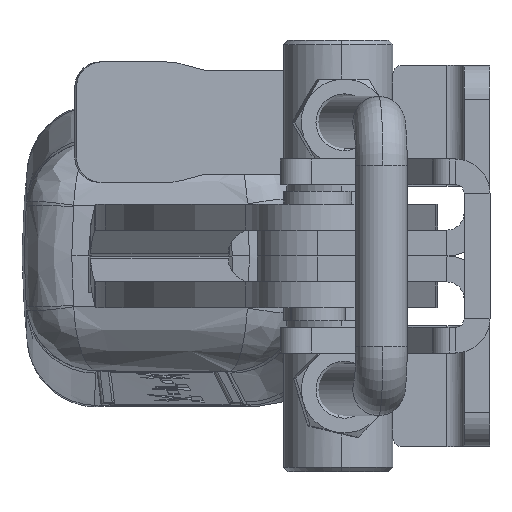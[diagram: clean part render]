
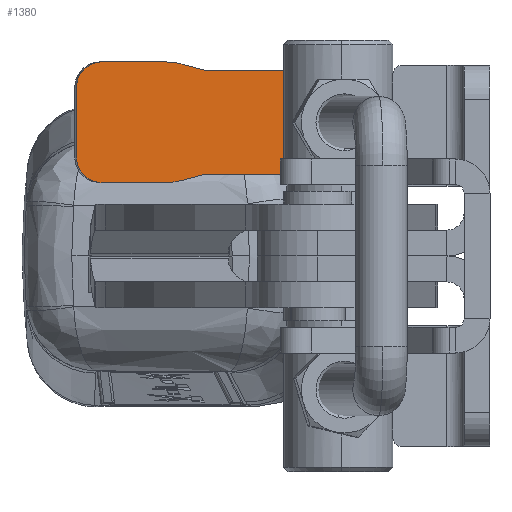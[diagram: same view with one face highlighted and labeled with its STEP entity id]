
A CAD part, left-side view. The second image highlights one B-rep face of the part: STEP entity #1380.
In plain terms, the highlighted planar face has unit normal (-0.998, -0.063, 0) as drawn and (0, 0, 1) by its records, which use the part's own axes.
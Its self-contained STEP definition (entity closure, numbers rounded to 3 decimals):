
#308 = ORIENTED_EDGE ( 'NONE', *, *, #16263, .T. ) ;
#650 = VERTEX_POINT ( 'NONE', #4717 ) ;
#947 = EDGE_CURVE ( 'NONE', #9253, #23996, #21048, .T. ) ;
#1380 = ADVANCED_FACE ( 'NONE', ( #8139, #23557 ), #25920, .T. ) ;
#1523 = AXIS2_PLACEMENT_3D ( 'NONE', #3799, #1849, #15891 ) ;
#1626 = ORIENTED_EDGE ( 'NONE', *, *, #9572, .T. ) ;
#1639 = CARTESIAN_POINT ( 'NONE',  ( -15.395, 9., 0. ) ) ;
#1642 = VERTEX_POINT ( 'NONE', #5174 ) ;
#1683 = CARTESIAN_POINT ( 'NONE',  ( -12.285, 6.727, 0. ) ) ;
#1712 = CARTESIAN_POINT ( 'NONE',  ( -33.2, 0., 0. ) ) ;
#1849 = DIRECTION ( 'NONE',  ( 0., 0., 1. ) ) ;
#1975 = DIRECTION ( 'NONE',  ( -1., 0., 0. ) ) ;
#1982 = LINE ( 'NONE', #14898, #21458 ) ;
#2034 = DIRECTION ( 'NONE',  ( 0., 0., 1. ) ) ;
#2256 = LINE ( 'NONE', #5144, #12331 ) ;
#2530 = CARTESIAN_POINT ( 'NONE',  ( -15.395, -9., 0. ) ) ;
#2654 = LINE ( 'NONE', #6118, #17421 ) ;
#2805 = CIRCLE ( 'NONE', #11822, 8. ) ;
#2993 = CARTESIAN_POINT ( 'NONE',  ( -15.395, -6., 0. ) ) ;
#3240 = VERTEX_POINT ( 'NONE', #22096 ) ;
#3573 = EDGE_CURVE ( 'NONE', #23996, #1642, #8431, .T. ) ;
#3662 = DIRECTION ( 'NONE',  ( 1., 0., 0. ) ) ;
#3675 = EDGE_CURVE ( 'NONE', #16708, #19549, #21926, .T. ) ;
#3734 = CARTESIAN_POINT ( 'NONE',  ( -3., 7., 0. ) ) ;
#3757 = AXIS2_PLACEMENT_3D ( 'NONE', #2530, #16583, #4570 ) ;
#3799 = CARTESIAN_POINT ( 'NONE',  ( -30., 0., 0. ) ) ;
#4414 = VECTOR ( 'NONE', #1975, 1000. ) ;
#4467 = ORIENTED_EDGE ( 'NONE', *, *, #16684, .T. ) ;
#4480 = ORIENTED_EDGE ( 'NONE', *, *, #3573, .T. ) ;
#4570 = DIRECTION ( 'NONE',  ( 1., 0., 0. ) ) ;
#4677 = ORIENTED_EDGE ( 'NONE', *, *, #9871, .T. ) ;
#4693 = ORIENTED_EDGE ( 'NONE', *, *, #10337, .T. ) ;
#4717 = CARTESIAN_POINT ( 'NONE',  ( -12.285, -6.727, 0. ) ) ;
#4832 = VERTEX_POINT ( 'NONE', #9727 ) ;
#5144 = CARTESIAN_POINT ( 'NONE',  ( -10.215, 7., 0. ) ) ;
#5174 = CARTESIAN_POINT ( 'NONE',  ( -30., -6., 0. ) ) ;
#5449 = CIRCLE ( 'NONE', #10583, 8. ) ;
#5605 = ORIENTED_EDGE ( 'NONE', *, *, #3675, .F. ) ;
#5664 = CARTESIAN_POINT ( 'NONE',  ( -3., 4., 0. ) ) ;
#6118 = CARTESIAN_POINT ( 'NONE',  ( 0., -4., 0. ) ) ;
#7032 = DIRECTION ( 'NONE',  ( 0., 0., 1. ) ) ;
#7169 = EDGE_CURVE ( 'NONE', #19549, #16708, #21815, .T. ) ;
#7412 = DIRECTION ( 'NONE',  ( 0., 0., 1. ) ) ;
#7584 = EDGE_CURVE ( 'NONE', #650, #4832, #5449, .T. ) ;
#7670 = DIRECTION ( 'NONE',  ( 1., 0., 0. ) ) ;
#7758 = DIRECTION ( 'NONE',  ( 0., 0., 1. ) ) ;
#8035 = ORIENTED_EDGE ( 'NONE', *, *, #7169, .F. ) ;
#8139 = FACE_BOUND ( 'NONE', #20803, .T. ) ;
#8343 = ORIENTED_EDGE ( 'NONE', *, *, #14946, .T. ) ;
#8399 = AXIS2_PLACEMENT_3D ( 'NONE', #23390, #11343, #25404 ) ;
#8431 = CIRCLE ( 'NONE', #16029, 6. ) ;
#8608 = VERTEX_POINT ( 'NONE', #3734 ) ;
#8842 = CARTESIAN_POINT ( 'NONE',  ( -10.215, -1., 0. ) ) ;
#9253 = VERTEX_POINT ( 'NONE', #16748 ) ;
#9257 = EDGE_CURVE ( 'NONE', #23684, #9253, #21374, .T. ) ;
#9262 = CARTESIAN_POINT ( 'NONE',  ( -26.8, 0., 0. ) ) ;
#9572 = EDGE_CURVE ( 'NONE', #20367, #24327, #12882, .T. ) ;
#9608 = VERTEX_POINT ( 'NONE', #1683 ) ;
#9727 = CARTESIAN_POINT ( 'NONE',  ( -10.215, -7., 0. ) ) ;
#9871 = EDGE_CURVE ( 'NONE', #1642, #19835, #24528, .T. ) ;
#10260 = EDGE_CURVE ( 'NONE', #19835, #22302, #19440, .T. ) ;
#10337 = EDGE_CURVE ( 'NONE', #3240, #9608, #2805, .T. ) ;
#10415 = VECTOR ( 'NONE', #17858, 1000. ) ;
#10475 = LINE ( 'NONE', #19991, #25877 ) ;
#10483 = CARTESIAN_POINT ( 'NONE',  ( -15.395, -6., 0. ) ) ;
#10583 = AXIS2_PLACEMENT_3D ( 'NONE', #14073, #2034, #16079 ) ;
#10856 = DIRECTION ( 'NONE',  ( 1., 0., 0. ) ) ;
#11054 = ORIENTED_EDGE ( 'NONE', *, *, #7584, .T. ) ;
#11343 = DIRECTION ( 'NONE',  ( 0., 0., 1. ) ) ;
#11615 = ORIENTED_EDGE ( 'NONE', *, *, #9257, .T. ) ;
#11822 = AXIS2_PLACEMENT_3D ( 'NONE', #8842, #22898, #10856 ) ;
#11986 = AXIS2_PLACEMENT_3D ( 'NONE', #19059, #7032, #21107 ) ;
#12331 = VECTOR ( 'NONE', #17159, 1000. ) ;
#12882 = CIRCLE ( 'NONE', #11986, 3. ) ;
#13185 = VECTOR ( 'NONE', #19043, 1000. ) ;
#13201 = CARTESIAN_POINT ( 'NONE',  ( -14.618, 6.102, 0. ) ) ;
#14021 = CARTESIAN_POINT ( 'NONE',  ( -15.395, 6., 0. ) ) ;
#14073 = CARTESIAN_POINT ( 'NONE',  ( -10.215, 1., 0. ) ) ;
#14898 = CARTESIAN_POINT ( 'NONE',  ( -10.215, -7., 0. ) ) ;
#14927 = CARTESIAN_POINT ( 'NONE',  ( -30., 6., 0. ) ) ;
#14946 = EDGE_CURVE ( 'NONE', #24327, #21146, #2654, .T. ) ;
#15613 = AXIS2_PLACEMENT_3D ( 'NONE', #5664, #19699, #7670 ) ;
#15691 = DIRECTION ( 'NONE',  ( 0., 0., -1. ) ) ;
#15752 = LINE ( 'NONE', #15829, #10415 ) ;
#15829 = CARTESIAN_POINT ( 'NONE',  ( -14.618, 6.102, 0. ) ) ;
#15891 = DIRECTION ( 'NONE',  ( 1., 0., 0. ) ) ;
#16029 = AXIS2_PLACEMENT_3D ( 'NONE', #19429, #7412, #21470 ) ;
#16079 = DIRECTION ( 'NONE',  ( 1., 0., 0. ) ) ;
#16263 = EDGE_CURVE ( 'NONE', #22302, #650, #10475, .T. ) ;
#16538 = EDGE_CURVE ( 'NONE', #4832, #20367, #1982, .T. ) ;
#16583 = DIRECTION ( 'NONE',  ( 0., 0., -1. ) ) ;
#16684 = EDGE_CURVE ( 'NONE', #21146, #8608, #19552, .T. ) ;
#16708 = VERTEX_POINT ( 'NONE', #1712 ) ;
#16748 = CARTESIAN_POINT ( 'NONE',  ( -15.395, 6., 0. ) ) ;
#16907 = DIRECTION ( 'NONE',  ( 1., 0., 0. ) ) ;
#16999 = AXIS2_PLACEMENT_3D ( 'NONE', #1639, #15691, #3662 ) ;
#17159 = DIRECTION ( 'NONE',  ( -1., 0., 0. ) ) ;
#17421 = VECTOR ( 'NONE', #21920, 1000. ) ;
#17858 = DIRECTION ( 'NONE',  ( -0.966, -0.259, 0. ) ) ;
#17992 = DIRECTION ( 'NONE',  ( 0.966, -0.259, 0. ) ) ;
#18451 = EDGE_LOOP ( 'NONE', ( #4480, #4677, #25896, #308, #11054, #22855, #1626, #8343, #4467, #25306, #4693, #20292, #11615, #22677 ) ) ;
#18950 = CARTESIAN_POINT ( 'NONE',  ( 0., 4., 0. ) ) ;
#19043 = DIRECTION ( 'NONE',  ( 1., 0., 0. ) ) ;
#19059 = CARTESIAN_POINT ( 'NONE',  ( -3., -4., 0. ) ) ;
#19429 = CARTESIAN_POINT ( 'NONE',  ( -30., 0., 0. ) ) ;
#19440 = CIRCLE ( 'NONE', #3757, 3. ) ;
#19549 = VERTEX_POINT ( 'NONE', #9262 ) ;
#19552 = CIRCLE ( 'NONE', #15613, 3. ) ;
#19699 = DIRECTION ( 'NONE',  ( 0., 0., 1. ) ) ;
#19776 = CARTESIAN_POINT ( 'NONE',  ( -30., 0., 0. ) ) ;
#19835 = VERTEX_POINT ( 'NONE', #10483 ) ;
#19991 = CARTESIAN_POINT ( 'NONE',  ( -14.618, -6.102, 0. ) ) ;
#20292 = ORIENTED_EDGE ( 'NONE', *, *, #25066, .T. ) ;
#20367 = VERTEX_POINT ( 'NONE', #22664 ) ;
#20803 = EDGE_LOOP ( 'NONE', ( #8035, #5605 ) ) ;
#21048 = LINE ( 'NONE', #14021, #4414 ) ;
#21107 = DIRECTION ( 'NONE',  ( 1., 0., 0. ) ) ;
#21146 = VERTEX_POINT ( 'NONE', #18950 ) ;
#21374 = CIRCLE ( 'NONE', #16999, 3. ) ;
#21458 = VECTOR ( 'NONE', #16907, 1000. ) ;
#21470 = DIRECTION ( 'NONE',  ( 1., 0., 0. ) ) ;
#21815 = CIRCLE ( 'NONE', #8399, 3.2 ) ;
#21818 = DIRECTION ( 'NONE',  ( 1., 0., 0. ) ) ;
#21920 = DIRECTION ( 'NONE',  ( 0., 1., 0. ) ) ;
#21926 = CIRCLE ( 'NONE', #24138, 3.2 ) ;
#22096 = CARTESIAN_POINT ( 'NONE',  ( -10.215, 7., 0. ) ) ;
#22302 = VERTEX_POINT ( 'NONE', #23403 ) ;
#22664 = CARTESIAN_POINT ( 'NONE',  ( -3., -7., 0. ) ) ;
#22677 = ORIENTED_EDGE ( 'NONE', *, *, #947, .T. ) ;
#22855 = ORIENTED_EDGE ( 'NONE', *, *, #16538, .T. ) ;
#22898 = DIRECTION ( 'NONE',  ( 0., 0., 1. ) ) ;
#22905 = CARTESIAN_POINT ( 'NONE',  ( 0., -4., 0. ) ) ;
#23390 = CARTESIAN_POINT ( 'NONE',  ( -30., 0., 0. ) ) ;
#23403 = CARTESIAN_POINT ( 'NONE',  ( -14.618, -6.102, 0. ) ) ;
#23557 = FACE_OUTER_BOUND ( 'NONE', #18451, .T. ) ;
#23684 = VERTEX_POINT ( 'NONE', #13201 ) ;
#23996 = VERTEX_POINT ( 'NONE', #14927 ) ;
#24138 = AXIS2_PLACEMENT_3D ( 'NONE', #19776, #7758, #21818 ) ;
#24327 = VERTEX_POINT ( 'NONE', #22905 ) ;
#24528 = LINE ( 'NONE', #2993, #13185 ) ;
#25066 = EDGE_CURVE ( 'NONE', #9608, #23684, #15752, .T. ) ;
#25306 = ORIENTED_EDGE ( 'NONE', *, *, #26031, .T. ) ;
#25404 = DIRECTION ( 'NONE',  ( 1., 0., 0. ) ) ;
#25877 = VECTOR ( 'NONE', #17992, 1000. ) ;
#25896 = ORIENTED_EDGE ( 'NONE', *, *, #10260, .T. ) ;
#25920 = PLANE ( 'NONE',  #1523 ) ;
#26031 = EDGE_CURVE ( 'NONE', #8608, #3240, #2256, .T. ) ;
